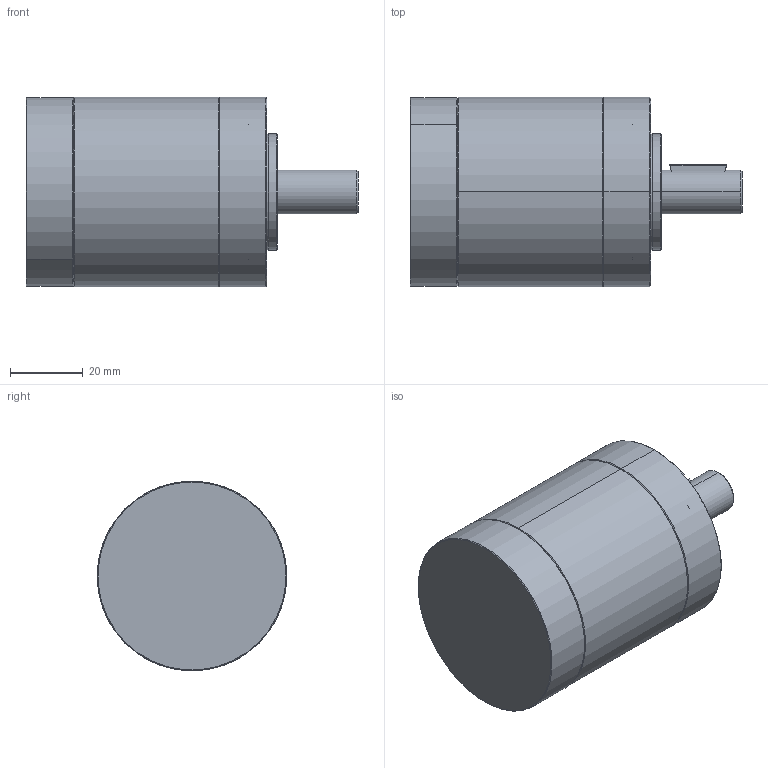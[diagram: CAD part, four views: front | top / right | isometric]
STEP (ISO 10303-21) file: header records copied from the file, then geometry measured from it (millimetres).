
FILE_DESCRIPTION (( 'STEP AP203' ), '1' );
FILE_NAME ('PI52-2.STEP', '2013-11-27T07:29:58', ( '' ), ( '' ), 'SwSTEP 2.0', 'SolidWorks 2012', '' );
FILE_SCHEMA (( 'CONFIG_CONTROL_DESIGN' ));
Length unit declared in the file: millimetre
Products named in the file (2): PI52-2; Group1^Baugruppe32_01
Assembly tree (1 placements, depth 2):
  PI52-2
    Group1^Baugruppe32_01
Bounding box: 91.1 x 52 x 52 mm (x, y, z)
Volume: 150194.7 mm3; surface area: 25282.6 mm2
Topology: 8 solids, 8 shells, 871 faces, 2192 edges, 1347 vertices
Faces by surface type: cone 484, cylinder 283, plane 84, torus 20
Full cylindrical faces by diameter (mm): 4.3 x4
Entity records: 26482 total; most frequent: DIRECTION 5220, CARTESIAN_POINT 4436, ORIENTED_EDGE 4348, AXIS2_PLACEMENT_3D 2179, EDGE_CURVE 2174, VERTEX_POINT 1347, CIRCLE 1304, EDGE_LOOP 899
